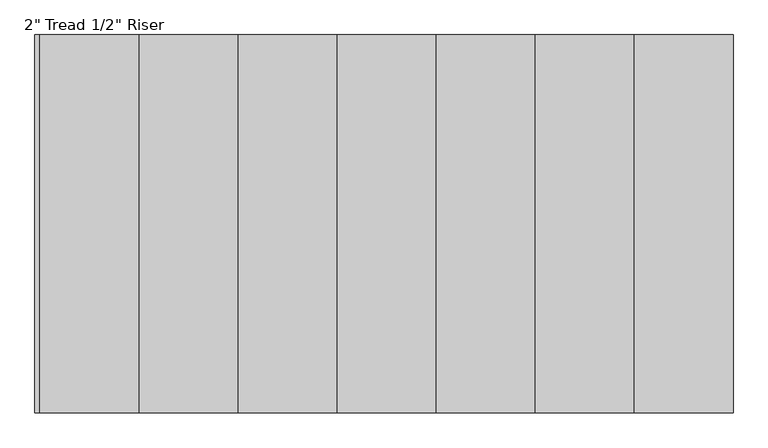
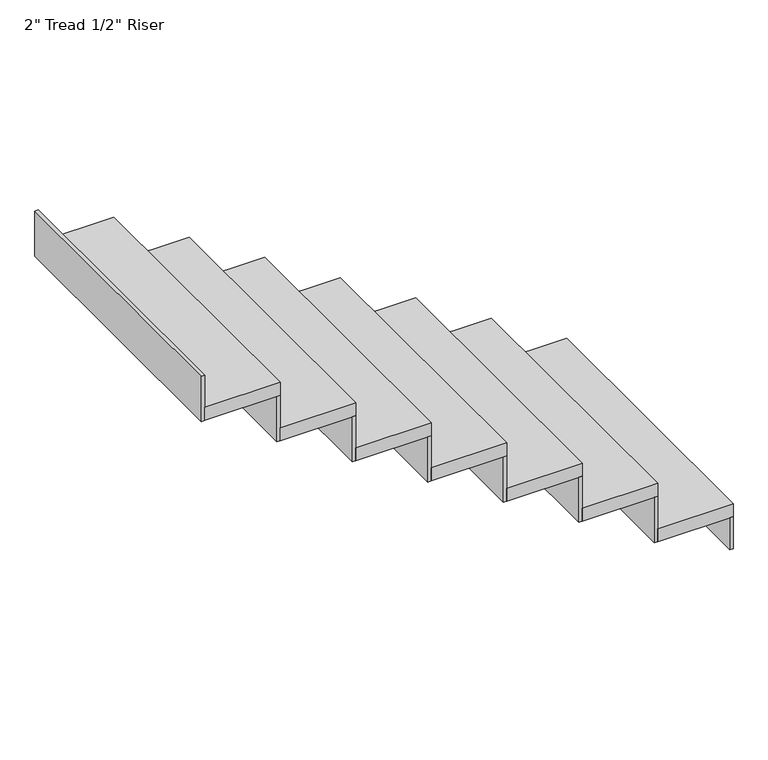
"""IFC4 building model written with IfcOpenShell, lengths in millimetres: stair flight geometry."""

from ifc_helpers import new_model, si_unit, frame, origin, place, context, project, spatial, polyline, outline, extrude, source, transform, mapped, element, save


def stair_flight_a305efe2(model_context):
    return source(origin(), model_context, "Body", "SweptSolid", [
        extrude(outline(polyline([(14326.4254798, 8436.5365306), (14339.1254798, 8436.5365306), (14339.1254798, 7369.7365306), (14326.4254798, 7369.7365306), (14326.4254798, 8436.5365306)])), frame((0.0, 0.0, -2743.2), z_axis=(0.0, 0.0, 1.0), x_axis=(1.0, 0.0, 0.0)), (0.0, 0.0, 1.0), 126.0592593),
        extrude(outline(polyline([(14059.7254798, 7369.7365306), (14059.7254798, 8436.5365306), (14339.1254798, 8436.5365306), (14339.1254798, 7369.7365306), (14059.7254798, 7369.7365306)])), frame((0.0, 0.0, -2617.1407407), z_axis=(0.0, 0.0, 1.0), x_axis=(1.0, 0.0, 0.0)), (0.0, 0.0, 1.0), 50.8),
        extrude(outline(polyline([(14047.0254798, 8436.5365306), (14059.7254798, 8436.5365306), (14059.7254798, 7369.7365306), (14047.0254798, 7369.7365306), (14047.0254798, 8436.5365306)])), frame((0.0, 0.0, -2617.1407407), z_axis=(0.0, 0.0, 1.0), x_axis=(1.0, 0.0, 0.0)), (0.0, 0.0, 1.0), 176.8592593),
        extrude(outline(polyline([(13780.3254798, 7369.7365306), (13780.3254798, 8436.5365306), (14059.7254798, 8436.5365306), (14059.7254798, 7369.7365306), (13780.3254798, 7369.7365306)])), frame((0.0, 0.0, -2440.2814815), z_axis=(0.0, 0.0, 1.0), x_axis=(1.0, 0.0, 0.0)), (0.0, 0.0, 1.0), 50.8),
        extrude(outline(polyline([(13767.6254798, 8436.5365306), (13780.3254798, 8436.5365306), (13780.3254798, 7369.7365306), (13767.6254798, 7369.7365306), (13767.6254798, 8436.5365306)])), frame((0.0, 0.0, -2440.2814815), z_axis=(0.0, 0.0, 1.0), x_axis=(1.0, 0.0, 0.0)), (0.0, 0.0, 1.0), 176.8592593),
        extrude(outline(polyline([(13500.9254798, 7369.7365306), (13500.9254798, 8436.5365306), (13780.3254798, 8436.5365306), (13780.3254798, 7369.7365306), (13500.9254798, 7369.7365306)])), frame((0.0, 0.0, -2263.4222222), z_axis=(0.0, 0.0, 1.0), x_axis=(1.0, 0.0, 0.0)), (0.0, 0.0, 1.0), 50.8),
        extrude(outline(polyline([(13488.2254798, 8436.5365306), (13500.9254798, 8436.5365306), (13500.9254798, 7369.7365306), (13488.2254798, 7369.7365306), (13488.2254798, 8436.5365306)])), frame((0.0, 0.0, -2263.4222222), z_axis=(0.0, 0.0, 1.0), x_axis=(1.0, 0.0, 0.0)), (0.0, 0.0, 1.0), 176.8592593),
        extrude(outline(polyline([(13221.5254798, 7369.7365306), (13221.5254798, 8436.5365306), (13500.9254798, 8436.5365306), (13500.9254798, 7369.7365306), (13221.5254798, 7369.7365306)])), frame((0.0, 0.0, -2086.562963), z_axis=(0.0, 0.0, 1.0), x_axis=(1.0, 0.0, 0.0)), (0.0, 0.0, 1.0), 50.8),
        extrude(outline(polyline([(13208.8254798, 8436.5365306), (13221.5254798, 8436.5365306), (13221.5254798, 7369.7365306), (13208.8254798, 7369.7365306), (13208.8254798, 8436.5365306)])), frame((0.0, 0.0, -2086.562963), z_axis=(0.0, 0.0, 1.0), x_axis=(1.0, 0.0, 0.0)), (0.0, 0.0, 1.0), 176.8592593),
        extrude(outline(polyline([(12942.1254798, 7369.7365306), (12942.1254798, 8436.5365306), (13221.5254798, 8436.5365306), (13221.5254798, 7369.7365306), (12942.1254798, 7369.7365306)])), frame((0.0, 0.0, -1909.7037037), z_axis=(0.0, 0.0, 1.0), x_axis=(1.0, 0.0, 0.0)), (0.0, 0.0, 1.0), 50.8),
        extrude(outline(polyline([(12929.4254798, 8436.5365306), (12942.1254798, 8436.5365306), (12942.1254798, 7369.7365306), (12929.4254798, 7369.7365306), (12929.4254798, 8436.5365306)])), frame((0.0, 0.0, -1909.7037037), z_axis=(0.0, 0.0, 1.0), x_axis=(1.0, 0.0, 0.0)), (0.0, 0.0, 1.0), 176.8592593),
        extrude(outline(polyline([(12662.7254798, 7369.7365306), (12662.7254798, 8436.5365306), (12942.1254798, 8436.5365306), (12942.1254798, 7369.7365306), (12662.7254798, 7369.7365306)])), frame((0.0, 0.0, -1732.8444444), z_axis=(0.0, 0.0, 1.0), x_axis=(1.0, 0.0, 0.0)), (0.0, 0.0, 1.0), 50.8),
        extrude(outline(polyline([(12650.0254798, 8436.5365306), (12662.7254798, 8436.5365306), (12662.7254798, 7369.7365306), (12650.0254798, 7369.7365306), (12650.0254798, 8436.5365306)])), frame((0.0, 0.0, -1732.8444444), z_axis=(0.0, 0.0, 1.0), x_axis=(1.0, 0.0, 0.0)), (0.0, 0.0, 1.0), 176.8592593),
        extrude(outline(polyline([(12383.3254798, 7369.7365306), (12383.3254798, 8436.5365306), (12662.7254798, 8436.5365306), (12662.7254798, 7369.7365306), (12383.3254798, 7369.7365306)])), frame((0.0, 0.0, -1555.9851852), z_axis=(0.0, 0.0, 1.0), x_axis=(1.0, 0.0, 0.0)), (0.0, 0.0, 1.0), 50.8),
        extrude(outline(polyline([(12370.6254798, 8436.5365306), (12383.3254798, 8436.5365306), (12383.3254798, 7369.7365306), (12370.6254798, 7369.7365306), (12370.6254798, 8436.5365306)])), frame((0.0, 0.0, -1555.9851852), z_axis=(0.0, 0.0, 1.0), x_axis=(1.0, 0.0, 0.0)), (0.0, 0.0, 1.0), 176.8592593),
    ])


if __name__ == "__main__":
    model = new_model("IFC4")
    model_context = context("Model", 3, world=origin())
    ifc_project = project(units=[si_unit("LENGTHUNIT", "METRE", prefix="MILLI")], contexts=[model_context])
    site = spatial("IfcSite", under=ifc_project)
    building = spatial("IfcBuilding", under=site)
    placement = place(None, origin())
    stair_flight_shape = stair_flight_a305efe2(model_context)
    element("IfcStairFlight", 1, ObjectType="2\" Tread 1/2\" Riser", at=placement, inside=building, context=model_context, shape_type="MappedRepresentation", body=[
        mapped(stair_flight_shape, transform((0.0, 0.0, 0.0), x_axis=(1.0, 0.0, 0.0), y_axis=(0.0, 1.0, 0.0), z_axis=(0.0, 0.0, 1.0))),
    ])
    save(model, "model.ifc")
